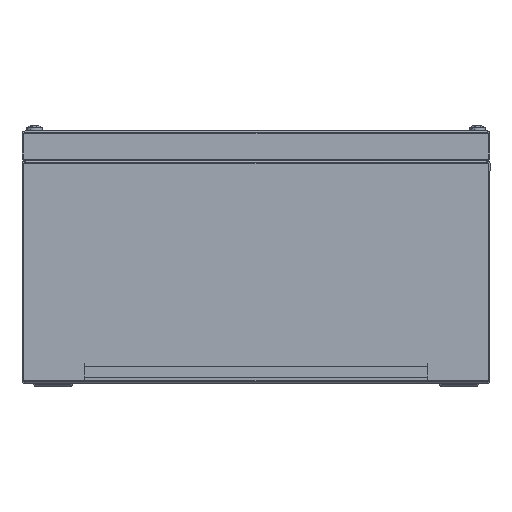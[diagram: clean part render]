
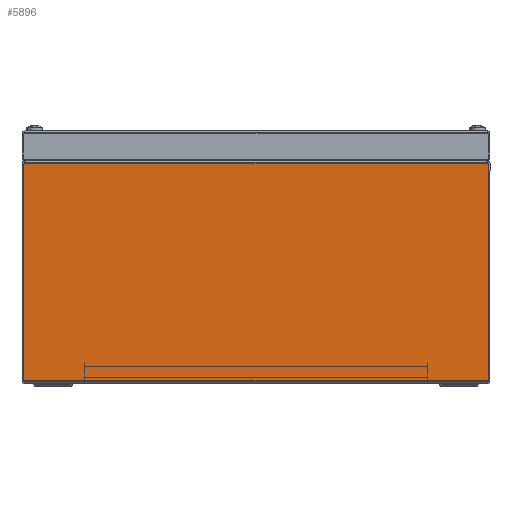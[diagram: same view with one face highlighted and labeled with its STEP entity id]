
A CAD part, front view. The second image highlights one B-rep face of the part: STEP entity #5896.
In plain terms, the highlighted planar face has unit normal (0, -1, 0).
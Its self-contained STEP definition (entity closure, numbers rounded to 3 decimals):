
#325 = LINE ( 'NONE', #3261, #13790 ) ;
#868 = EDGE_CURVE ( 'NONE', #12983, #13350, #5396, .T. ) ;
#1184 = ORIENTED_EDGE ( 'NONE', *, *, #14671, .T. ) ;
#2780 = AXIS2_PLACEMENT_3D ( 'NONE', #13127, #11786, #15388 ) ;
#2888 = CARTESIAN_POINT ( 'NONE',  ( -148.729, -250., 139.863 ) ) ;
#3129 = LINE ( 'NONE', #5794, #3341 ) ;
#3261 = CARTESIAN_POINT ( 'NONE',  ( 148.729, -250., 0.737 ) ) ;
#3341 = VECTOR ( 'NONE', #7229, 1000. ) ;
#4306 = VECTOR ( 'NONE', #5965, 1000. ) ;
#5396 = LINE ( 'NONE', #8298, #13786 ) ;
#5794 = CARTESIAN_POINT ( 'NONE',  ( -150., -250., 0.737 ) ) ;
#5837 = ORIENTED_EDGE ( 'NONE', *, *, #5909, .F. ) ;
#5896 = ADVANCED_FACE ( 'NONE', ( #6262 ), #11905, .F. ) ;
#5909 = EDGE_CURVE ( 'NONE', #10389, #6466, #3129, .T. ) ;
#5965 = DIRECTION ( 'NONE',  ( 0., 0., 1. ) ) ;
#6262 = FACE_OUTER_BOUND ( 'NONE', #9798, .T. ) ;
#6434 = ORIENTED_EDGE ( 'NONE', *, *, #11028, .F. ) ;
#6466 = VERTEX_POINT ( 'NONE', #12777 ) ;
#7229 = DIRECTION ( 'NONE',  ( -1., 0., 0. ) ) ;
#8298 = CARTESIAN_POINT ( 'NONE',  ( 148.729, -250., 139.863 ) ) ;
#8856 = ORIENTED_EDGE ( 'NONE', *, *, #868, .T. ) ;
#9346 = DIRECTION ( 'NONE',  ( 0., 0., 1. ) ) ;
#9798 = EDGE_LOOP ( 'NONE', ( #8856, #6434, #5837, #1184 ) ) ;
#10389 = VERTEX_POINT ( 'NONE', #12116 ) ;
#10646 = CARTESIAN_POINT ( 'NONE',  ( 148.729, -250., 139.863 ) ) ;
#11028 = EDGE_CURVE ( 'NONE', #6466, #13350, #12729, .T. ) ;
#11786 = DIRECTION ( 'NONE',  ( 0., 1., 0. ) ) ;
#11905 = PLANE ( 'NONE',  #2780 ) ;
#12084 = DIRECTION ( 'NONE',  ( -1., 0., 0. ) ) ;
#12116 = CARTESIAN_POINT ( 'NONE',  ( 148.729, -250., 0.737 ) ) ;
#12729 = LINE ( 'NONE', #13214, #4306 ) ;
#12777 = CARTESIAN_POINT ( 'NONE',  ( -148.729, -250., 0.737 ) ) ;
#12983 = VERTEX_POINT ( 'NONE', #10646 ) ;
#13127 = CARTESIAN_POINT ( 'NONE',  ( 0., -250., 0. ) ) ;
#13214 = CARTESIAN_POINT ( 'NONE',  ( -148.729, -250., 0.737 ) ) ;
#13350 = VERTEX_POINT ( 'NONE', #2888 ) ;
#13786 = VECTOR ( 'NONE', #12084, 1000. ) ;
#13790 = VECTOR ( 'NONE', #9346, 1000. ) ;
#14671 = EDGE_CURVE ( 'NONE', #10389, #12983, #325, .T. ) ;
#15388 = DIRECTION ( 'NONE',  ( 0., 0., 1. ) ) ;
